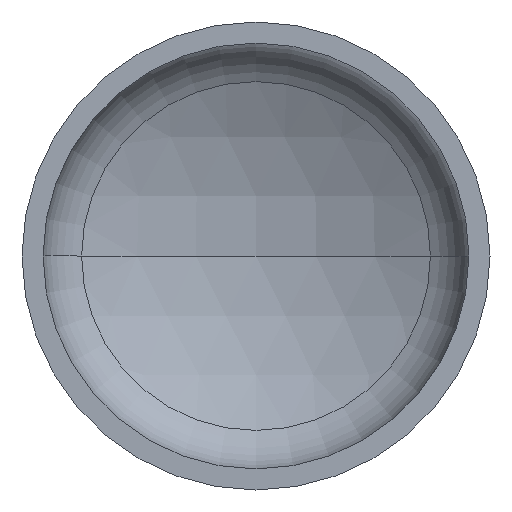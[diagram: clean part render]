
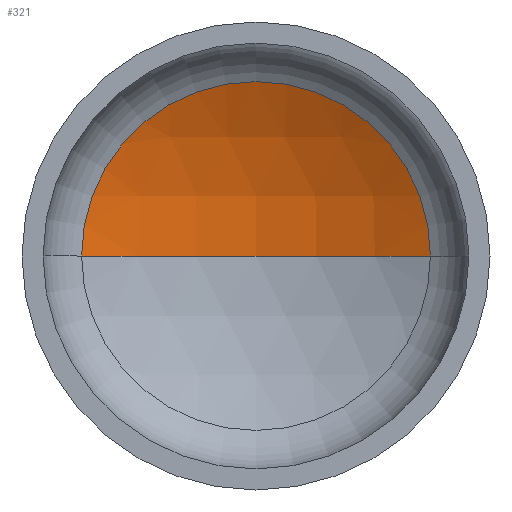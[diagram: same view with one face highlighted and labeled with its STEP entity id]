
A CAD part, front view. The second image highlights one B-rep face of the part: STEP entity #321.
In plain terms, the highlighted spherical face has radius 960 mm.
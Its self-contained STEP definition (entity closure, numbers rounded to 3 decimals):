
#5 = AXIS2_PLACEMENT_3D ( 'NONE', #145, #325, #177 ) ;
#14 = AXIS2_PLACEMENT_3D ( 'NONE', #394, #43, #172 ) ;
#15 = EDGE_LOOP ( 'NONE', ( #28, #102, #406 ) ) ;
#24 = DIRECTION ( 'NONE',  ( 1., 0., 0. ) ) ;
#28 = ORIENTED_EDGE ( 'NONE', *, *, #340, .F. ) ;
#33 = DIRECTION ( 'NONE',  ( 0., -1., 0. ) ) ;
#41 = AXIS2_PLACEMENT_3D ( 'NONE', #368, #214, #391 ) ;
#42 = CARTESIAN_POINT ( 'NONE',  ( 0., 283.704, 0. ) ) ;
#43 = DIRECTION ( 'NONE',  ( 0., 0., -1. ) ) ;
#46 = AXIS2_PLACEMENT_3D ( 'NONE', #42, #33, #24 ) ;
#102 = ORIENTED_EDGE ( 'NONE', *, *, #122, .T. ) ;
#112 = EDGE_CURVE ( 'NONE', #283, #356, #351, .T. ) ;
#116 = FACE_OUTER_BOUND ( 'NONE', #15, .T. ) ;
#122 = EDGE_CURVE ( 'NONE', #276, #283, #274, .T. ) ;
#145 = CARTESIAN_POINT ( 'NONE',  ( 0., -565.787, 0. ) ) ;
#172 = DIRECTION ( 'NONE',  ( -1., 0., 0. ) ) ;
#177 = DIRECTION ( 'NONE',  ( 1., 0., 0. ) ) ;
#214 = DIRECTION ( 'NONE',  ( 0., 0., -1. ) ) ;
#243 = CIRCLE ( 'NONE', #5, 960. ) ;
#244 = CARTESIAN_POINT ( 'NONE',  ( 0., 394.213, 0. ) ) ;
#254 = SPHERICAL_SURFACE ( 'NONE', #14, 960. ) ;
#274 = CIRCLE ( 'NONE', #41, 960. ) ;
#276 = VERTEX_POINT ( 'NONE', #244 ) ;
#283 = VERTEX_POINT ( 'NONE', #319 ) ;
#319 = CARTESIAN_POINT ( 'NONE',  ( 447.174, 283.704, 0. ) ) ;
#321 = ADVANCED_FACE ( 'NONE', ( #116 ), #254, .F. ) ;
#325 = DIRECTION ( 'NONE',  ( 0., 0., 1. ) ) ;
#340 = EDGE_CURVE ( 'NONE', #276, #356, #243, .T. ) ;
#351 = CIRCLE ( 'NONE', #46, 447.174 ) ;
#356 = VERTEX_POINT ( 'NONE', #399 ) ;
#368 = CARTESIAN_POINT ( 'NONE',  ( 0., -565.787, 0. ) ) ;
#391 = DIRECTION ( 'NONE',  ( -1., 0., 0. ) ) ;
#394 = CARTESIAN_POINT ( 'NONE',  ( 0., -565.787, 0. ) ) ;
#399 = CARTESIAN_POINT ( 'NONE',  ( -447.174, 283.704, 0. ) ) ;
#406 = ORIENTED_EDGE ( 'NONE', *, *, #112, .T. ) ;
